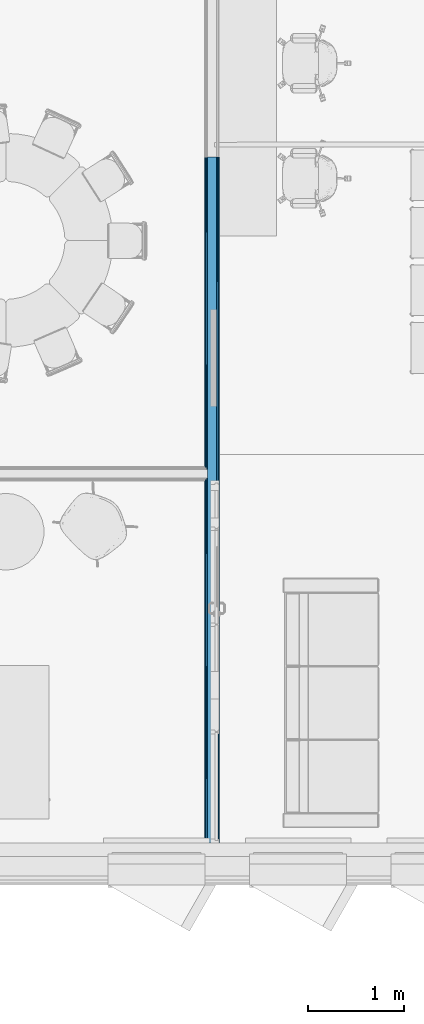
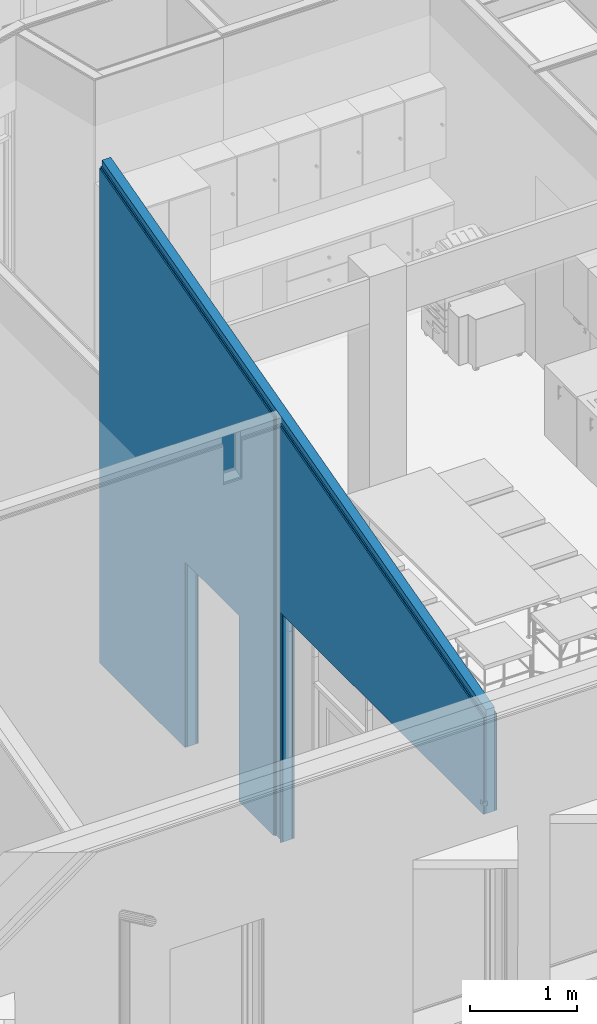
# One storey, part 69 of 153: 5 building element parts, 2 openings, 1 element without a shape of its own.
"""IFC2X3 building model written with IfcOpenShell, lengths in millimetres."""

from ifc_helpers import new_model, entity, si_unit, converted_unit, derived_unit, money_unit, direction, frame, origin_with_axes, place, context, subcontext, project, spatial, faceted_brep, material, type_object, element, aggregate, save


model = new_model("IFC2X3")

# Units and contexts
model_context = context("Model", 3, precision=0.01, world=origin_with_axes(), true_north=direction((0.0, 1.0)))
body_context = subcontext(model_context, "Body", "Model", "MODEL_VIEW")
ifc_project = project(units=[si_unit("LENGTHUNIT", "METRE", prefix="MILLI"), si_unit("AREAUNIT", "SQUARE_METRE"), si_unit("VOLUMEUNIT", "CUBIC_METRE"), converted_unit("PLANEANGLEUNIT", "DEGREE", entity("IfcPlaneAngleMeasure", 0.0174532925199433), si_unit("PLANEANGLEUNIT", "RADIAN"), dimensions=[0, 0, 0, 0, 0, 0, 0]), money_unit("EUR"), converted_unit("TIMEUNIT", "Year", entity("IfcTimeMeasure", 31557600.0), si_unit("TIMEUNIT", "SECOND"), dimensions=[0, 0, 1, 0, 0, 0, 0]), si_unit("MASSUNIT", "GRAM", prefix="KILO"), si_unit("THERMODYNAMICTEMPERATUREUNIT", "DEGREE_CELSIUS"), si_unit("LUMINOUSINTENSITYUNIT", "LUMEN"), si_unit("ENERGYUNIT", "JOULE", prefix="MEGA"), derived_unit("THERMALCONDUCTANCEUNIT", [(si_unit("POWERUNIT", "WATT"), 1), (si_unit("LENGTHUNIT", "METRE"), -1), (si_unit("THERMODYNAMICTEMPERATUREUNIT", "KELVIN"), -1)]), derived_unit("SPECIFICHEATCAPACITYUNIT", [(si_unit("ENERGYUNIT", "JOULE"), 1), (si_unit("MASSUNIT", "GRAM", prefix="KILO"), -1), (si_unit("THERMODYNAMICTEMPERATUREUNIT", "KELVIN"), -1)]), derived_unit("MASSDENSITYUNIT", [(si_unit("MASSUNIT", "GRAM", prefix="KILO"), 1), (si_unit("VOLUMEUNIT", "CUBIC_METRE"), -1)])], contexts=[model_context])

# Site, building, storey
site_placement = place(None, frame((0.0, 0.0, 8650.0), z_axis=(0.0, 0.0, 1.0), x_axis=(1.0, 0.0, 0.0)))
site = spatial("IfcSite", under=ifc_project, at=site_placement, Name="43301:001:0844", CompositionType="ELEMENT")
building_placement = place(site_placement, origin_with_axes())
building = spatial("IfcBuilding", under=site, at=building_placement, Name="Kuressaare Ametikooli tuulikute mehaanikute õppekorpus", CompositionType="ELEMENT")
storey_placement = place(building_placement, frame((0.0, 0.0, 4100.0), z_axis=(0.0, 0.0, 1.0), x_axis=(1.0, 0.0, 0.0)))
storey = spatial("IfcBuildingStorey", under=building, at=storey_placement, Name="2.korrus", CompositionType="ELEMENT", Elevation=4100.0)

# Wall, openings, building element parts
wall_type = type_object("IfcWallType", Name="SS-2.2 147", PredefinedType="NOTDEFINED")
wall_placement = place(storey_placement, frame((122757.3962682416, 9123.838490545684, 0.0), z_axis=(0.0, 0.0, 1.0), x_axis=(0.0, 1.0, 0.0)))
wall = element("IfcWall", 1, at=wall_placement, inside=storey, type_object=wall_type, Name="Sisesein")
opening_1_placement = place(wall_placement, frame((5050.097294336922, 0.0, 0.0), z_axis=(0.0, 0.0, 1.0), x_axis=(1.0, 0.0, 0.0)))
element("IfcOpeningElement", 2, at=opening_1_placement, cuts=wall, Name="PU10,dB", context=body_context, shape_type="Brep", body=[
    faceted_brep([(505.0000000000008, 1.000000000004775, 2110.0), (505.0000000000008, 1.000000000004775, 0.0), (-505.0000000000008, 1.000000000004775, 0.0), (-505.0000000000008, 1.000000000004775, 2110.0), (505.0000000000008, -148.0000000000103, 2110.0), (505.0000000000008, -148.0000000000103, 0.0), (-505.0000000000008, -148.0000000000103, 0.0), (-505.0000000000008, -148.0000000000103, 2110.0)], [[[0, 1, 2, 3]], [[4, 5, 1, 0]], [[5, 6, 2, 1]], [[6, 7, 3, 2]], [[7, 4, 0, 3]], [[6, 5, 4, 7]]]),
])
opening_2_placement = place(wall_placement, frame((1887.048647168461, 0.0, 0.0), z_axis=(0.0, 0.0, 1.0), x_axis=(1.0, 0.0, 0.0)))
element("IfcOpeningElement", 3, at=opening_2_placement, cuts=wall, Name="ava", context=body_context, shape_type="Brep", body=[
    faceted_brep([(-1887.048647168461, 0.0, 2610.0), (1887.048647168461, 0.0, 2610.0), (1887.048647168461, 1.000000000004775, 2610.0), (-1887.048647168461, 1.000000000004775, 2610.0), (-1887.048647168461, -148.0000000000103, 2610.0), (1887.048647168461, -148.0000000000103, 2610.0), (1887.048647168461, 0.0, 0.0), (1887.048647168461, 1.000000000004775, 0.0), (-1887.048647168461, 1.000000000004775, 0.0), (-1887.048647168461, 0.0, 0.0), (-1887.048647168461, -148.0000000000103, 0.0), (1887.048647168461, -148.0000000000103, 0.0)], [[[0, 1, 2, 3]], [[1, 0, 4, 5]], [[1, 6, 7, 2]], [[7, 8, 3, 2]], [[9, 0, 3, 8]], [[0, 9, 10, 4]], [[4, 10, 11, 5]], [[6, 1, 5, 11]], [[6, 9, 8, 7]], [[9, 6, 11, 10]]]),
])
ifc_material_1 = material(Name="Kipsplaat")
building_element_part_1_placement = place(wall_placement, origin_with_axes())
building_element_part_1 = element("IfcBuildingElementPart", 4, at=building_element_part_1_placement, material=ifc_material_1, Name="Kipsplaat", context=body_context, shape_type="Brep", body=[
    faceted_brep([(3774.097294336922, -12.9999999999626, 2610.0), (3774.097294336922, -13.00000000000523, 0.0), (3787.097294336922, -13.00000000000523, 0.0), (3787.097294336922, -12.9999999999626, 4720.958943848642), (0.002075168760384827, -12.99999999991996, 3706.209838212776), (0.00207516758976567, -13.00000000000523, 3664.798791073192), (0.0, -13.00000000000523, 2750.0), (49.99999999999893, -13.00000000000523, 2750.0), (49.99999999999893, -13.00000000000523, 2700.0), (0.0, -13.00000000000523, 2700.0), (0.0, -13.00000000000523, 2610.0), (3774.097294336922, 0.0, 2610.0), (3774.097294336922, 0.0, 0.0), (3787.097294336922, 0.0, 0.0), (3787.097294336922, 4.815561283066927e-06, 4720.958944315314), (0.002074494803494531, 1.427594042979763e-06, 3706.209838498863), (0.002074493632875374, 0.0, 3664.798791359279), (0.0, 0.0, 2750.0), (49.99999999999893, 0.0, 2750.0), (49.99999999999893, 0.0, 2700.0), (0.0, 0.0, 2700.0), (0.0, 0.0, 2610.0)], [[[0, 1, 2, 3, 4, 5, 6, 7, 8, 9, 10]], [[1, 0, 11, 12]], [[1, 12, 13, 2]], [[3, 2, 13, 14]], [[3, 14, 15, 4]], [[15, 16, 5, 4]], [[5, 16, 17, 6]], [[17, 18, 7, 6]], [[18, 19, 8, 7]], [[19, 20, 9, 8]], [[21, 10, 9, 20]], [[0, 10, 21, 11]], [[11, 21, 20, 19, 18, 17, 16, 15, 14, 13, 12]]]),
    faceted_brep([(4545.097294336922, -13.00000000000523, 0.0), (4545.097294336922, -13.00000000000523, 2110.0), (5555.097294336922, -13.00000000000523, 2110.0), (5555.097294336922, -13.00000000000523, 0.0), (7145.215424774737, -13.00000000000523, 0.0), (7145.215424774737, -13.00000000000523, 5620.763984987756), (3908.097294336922, -12.9999999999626, 4753.380796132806), (3908.097294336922, -13.00000000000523, 0.0), (4545.097294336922, 0.0, 0.0), (4545.097294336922, 4.644491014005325e-06, 2110.0), (5555.097294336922, 4.644491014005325e-06, 2110.0), (5555.097294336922, 0.0, 0.0), (7145.215424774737, 0.0, 0.0), (7145.215424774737, 0.0, 5620.76398545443), (3908.097294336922, 4.644491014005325e-06, 4753.380796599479), (3908.097294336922, 0.0, 0.0)], [[[0, 1, 2, 3, 4, 5, 6, 7]], [[1, 0, 8, 9]], [[2, 1, 9, 10]], [[3, 2, 10, 11]], [[3, 11, 12, 4]], [[5, 4, 12, 13]], [[5, 13, 14, 6]], [[14, 15, 7, 6]], [[8, 0, 7, 15]], [[9, 8, 15, 14, 13, 12, 11, 10]]]),
])
building_element_part_2_placement = place(wall_placement, origin_with_axes())
building_element_part_2 = element("IfcBuildingElementPart", 5, at=building_element_part_2_placement, material=ifc_material_1, Name="Kipsplaat", context=body_context, shape_type="Brep", body=[
    faceted_brep([(3774.097294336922, -25.99999999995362, 2610.0), (3774.097294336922, -25.99999999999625, 0.0), (3800.097294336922, -25.99999999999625, 0.0), (3800.097294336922, -25.99999999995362, 4739.971425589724), (0.002075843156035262, -25.99999999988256, 3721.738980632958), (0.002075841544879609, -25.99999999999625, 3664.798790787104), (0.0, -25.99999999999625, 2750.0), (49.99999999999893, -25.99999999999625, 2750.0), (49.99999999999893, -25.99999999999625, 2700.0), (0.0, -25.99999999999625, 2700.0), (0.0, -25.99999999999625, 2610.0), (3774.097294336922, -12.99999999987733, 2610.0), (3774.097294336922, -13.00000000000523, 0.0), (3800.097294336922, -13.00000000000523, 0.0), (3800.097294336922, -12.9999999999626, 4739.971426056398), (0.002075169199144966, -12.99999999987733, 3721.738980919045), (0.00207516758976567, -13.00000000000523, 3664.798791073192), (0.0, -13.00000000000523, 2750.0), (49.99999999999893, -13.00000000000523, 2750.0), (49.99999999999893, -13.00000000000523, 2700.0), (0.0, -13.00000000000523, 2700.0), (0.0, -13.00000000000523, 2610.0)], [[[0, 1, 2, 3, 4, 5, 6, 7, 8, 9, 10]], [[1, 0, 11, 12]], [[1, 12, 13, 2]], [[3, 2, 13, 14]], [[3, 14, 15, 4]], [[15, 16, 5, 4]], [[16, 17, 6, 5]], [[18, 7, 6, 17]], [[19, 8, 7, 18]], [[20, 9, 8, 19]], [[21, 10, 9, 20]], [[0, 10, 21, 11]], [[11, 21, 20, 19, 18, 17, 16, 15, 14, 13, 12]]]),
    faceted_brep([(4545.097294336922, -25.99999999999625, 0.0), (4545.097294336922, -25.99999999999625, 2110.0), (5555.097294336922, -25.99999999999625, 2110.0), (5555.097294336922, -25.99999999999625, 0.0), (7145.215424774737, -25.99999999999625, 0.0), (7145.215424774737, -25.99999999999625, 5636.293127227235), (3895.097294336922, -25.99999999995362, 4765.426598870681), (3895.097294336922, -25.99999999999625, 0.0), (4545.097294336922, -13.00000000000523, 0.0), (4545.097294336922, -12.9999999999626, 2110.0), (5555.097294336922, -12.9999999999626, 2110.0), (5555.097294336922, -13.00000000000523, 0.0), (7145.215424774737, -13.00000000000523, 0.0), (7145.215424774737, -13.00000000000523, 5636.293127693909), (3895.097294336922, -12.9999999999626, 4765.426599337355), (3895.097294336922, -13.00000000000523, 0.0)], [[[0, 1, 2, 3, 4, 5, 6, 7]], [[1, 0, 8, 9]], [[2, 1, 9, 10]], [[3, 2, 10, 11]], [[3, 11, 12, 4]], [[5, 4, 12, 13]], [[5, 13, 14, 6]], [[14, 15, 7, 6]], [[8, 0, 7, 15]], [[9, 8, 15, 14, 13, 12, 11, 10]]]),
])
ifc_material_2 = material(Name="Soojustus - Mineraalvill pehme")
building_element_part_3_placement = place(wall_placement, origin_with_axes())
building_element_part_3 = element("IfcBuildingElementPart", 6, at=building_element_part_3_placement, material=ifc_material_2, Name="Soojustus - Mineraalvill pehme", context=body_context, shape_type="Brep", body=[
    faceted_brep([(3774.097294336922, -120.9999999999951, 2610.0), (3774.097294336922, -120.9999999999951, 0.0), (4545.097294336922, -120.9999999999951, 0.0), (4545.097294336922, -120.9999999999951, 2110.0), (5555.097294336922, -120.9999999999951, 2110.0), (5555.097294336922, -120.9999999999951, 0.0), (7145.215424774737, -120.9999999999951, 0.0), (7145.215424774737, -120.9999999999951, 5703.586075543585), (0.00208077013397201, -120.9999999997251, 3789.031930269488), (0.002080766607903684, -120.9999999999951, 3664.798788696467), (0.0, -120.9999999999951, 2610.0), (3774.097294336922, -25.99999999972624, 2610.0), (3774.097294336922, -25.99999999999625, 0.0), (4545.097294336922, -25.99999999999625, 0.0), (4545.097294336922, -25.99999999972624, 2110.0), (5555.097294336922, -25.99999999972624, 2110.0), (5555.097294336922, -25.99999999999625, 0.0), (7145.215424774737, -25.99999999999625, 0.0), (7145.215424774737, -25.99999999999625, 5703.586078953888), (0.002075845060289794, -25.99999999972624, 3789.031932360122), (0.002075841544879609, -25.99999999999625, 3664.798790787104), (0.0, -25.99999999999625, 2610.0), (0.0, -25.99999999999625, 2750.0), (0.0, -44.99999999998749, 2750.0), (0.0, -44.99999999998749, 2700.0), (0.0, -25.99999999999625, 2700.0), (49.99999999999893, -25.99999999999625, 2700.0), (49.99999999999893, -25.99999999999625, 2750.0), (49.99999999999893, -44.99999999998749, 2750.0), (49.99999999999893, -44.99999999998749, 2700.0)], [[[0, 1, 2, 3, 4, 5, 6, 7, 8, 9, 10]], [[1, 0, 11, 12]], [[1, 12, 13, 2]], [[2, 13, 14, 3]], [[3, 14, 15, 4]], [[4, 15, 16, 5]], [[16, 17, 6, 5]], [[6, 17, 18, 7]], [[18, 19, 8, 7]], [[20, 9, 8, 19]], [[21, 10, 9, 20, 22, 23, 24, 25]], [[0, 10, 21, 11]], [[11, 21, 25, 26, 27, 22, 20, 19, 18, 17, 16, 15, 14, 13, 12]], [[27, 28, 23, 22]], [[28, 29, 24, 23]], [[29, 26, 25, 24]], [[29, 28, 27, 26]]]),
])
building_element_part_4_placement = place(wall_placement, origin_with_axes())
building_element_part_4 = element("IfcBuildingElementPart", 7, at=building_element_part_4_placement, material=ifc_material_1, Name="Kipsplaat", context=body_context, shape_type="Brep", body=[
    faceted_brep([(3774.097294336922, -134.0000000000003, 2610.0), (3774.097294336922, -134.0000000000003, 0.0), (4545.097294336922, -134.0000000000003, 0.0), (4545.097294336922, -134.0000000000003, 2110.0), (5555.097294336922, -134.0000000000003, 2110.0), (5555.097294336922, -134.0000000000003, 0.0), (7145.215424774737, -134.0000000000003, 0.0), (7145.215424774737, -134.0000000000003, 5636.293123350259), (0.002081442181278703, -133.9999999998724, 3721.738978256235), (0.002081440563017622, -134.0000000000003, 3664.79878841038), (0.0, -134.0000000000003, 2610.0), (3774.097294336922, -120.9999999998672, 2610.0), (3774.097294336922, -120.9999999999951, 0.0), (4545.097294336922, -120.9999999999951, 0.0), (4545.097294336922, -120.9999999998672, 2110.0), (5555.097294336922, -120.9999999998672, 2110.0), (5555.097294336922, -120.9999999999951, 0.0), (7145.215424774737, -120.9999999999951, 0.0), (7145.215424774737, -120.9999999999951, 5636.293123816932), (0.002080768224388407, -120.9999999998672, 3721.738978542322), (0.002080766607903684, -120.9999999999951, 3664.798788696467), (0.0, -120.9999999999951, 2610.0)], [[[0, 1, 2, 3, 4, 5, 6, 7, 8, 9, 10]], [[1, 0, 11, 12]], [[1, 12, 13, 2]], [[2, 13, 14, 3]], [[3, 14, 15, 4]], [[4, 15, 16, 5]], [[16, 17, 6, 5]], [[6, 17, 18, 7]], [[18, 19, 8, 7]], [[20, 9, 8, 19]], [[21, 10, 9, 20]], [[0, 10, 21, 11]], [[11, 21, 20, 19, 18, 17, 16, 15, 14, 13, 12]]]),
])
building_element_part_5_placement = place(wall_placement, origin_with_axes())
building_element_part_5 = element("IfcBuildingElementPart", 8, at=building_element_part_5_placement, material=ifc_material_1, Name="Kipsplaat", context=body_context, shape_type="Brep", body=[
    faceted_brep([(3774.097294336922, -147.0000000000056, 2610.0), (3774.097294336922, -147.0000000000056, 0.0), (4545.097294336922, -147.0000000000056, 0.0), (4545.097294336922, -147.0000000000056, 2110.0), (5555.097294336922, -147.0000000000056, 2110.0), (5555.097294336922, -147.0000000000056, 0.0), (7145.215424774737, -147.0000000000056, 0.0), (7145.215424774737, -147.0000000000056, 5620.763980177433), (0.002082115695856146, -146.9999999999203, 3706.209835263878), (0.002082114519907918, -147.0000000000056, 3664.798788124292), (0.0, -147.0000000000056, 2610.0), (3774.097294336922, -133.9999999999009, 2610.0), (3774.097294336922, -134.0000000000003, 0.0), (4545.097294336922, -134.0000000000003, 0.0), (4545.097294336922, -133.9999999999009, 2110.0), (5555.097294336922, -133.9999999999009, 2110.0), (5555.097294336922, -134.0000000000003, 0.0), (7145.215424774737, -134.0000000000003, 0.0), (7145.215424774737, -134.0000000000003, 5620.763980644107), (0.00208144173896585, -133.9999999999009, 3706.209835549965), (0.002081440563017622, -134.0000000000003, 3664.79878841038), (0.0, -134.0000000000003, 2610.0)], [[[0, 1, 2, 3, 4, 5, 6, 7, 8, 9, 10]], [[1, 0, 11, 12]], [[1, 12, 13, 2]], [[2, 13, 14, 3]], [[3, 14, 15, 4]], [[4, 15, 16, 5]], [[16, 17, 6, 5]], [[6, 17, 18, 7]], [[18, 19, 8, 7]], [[20, 9, 8, 19]], [[21, 10, 9, 20]], [[0, 10, 21, 11]], [[11, 21, 20, 19, 18, 17, 16, 15, 14, 13, 12]]]),
])
aggregate(wall, [building_element_part_1, building_element_part_2, building_element_part_3, building_element_part_4, building_element_part_5])

save(model, "model.ifc")
